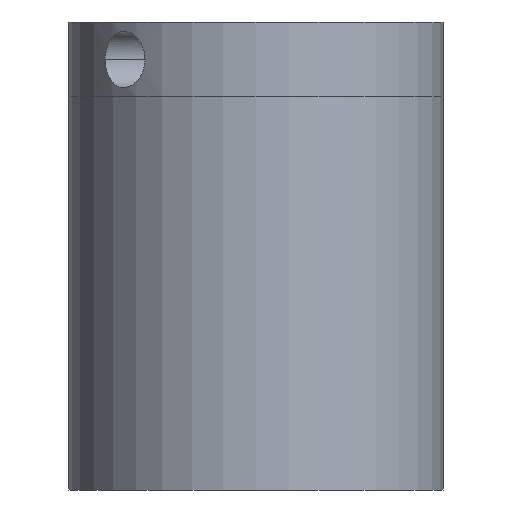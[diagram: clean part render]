
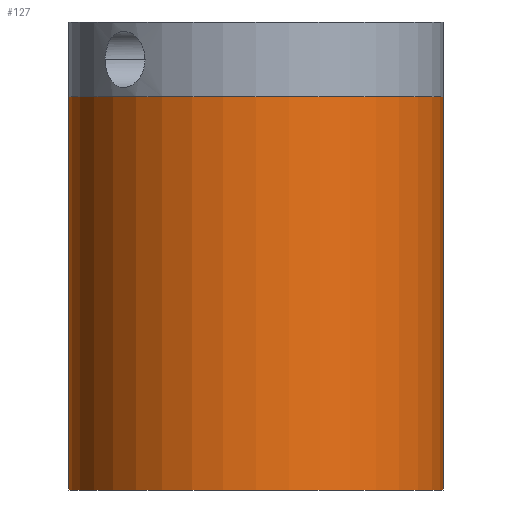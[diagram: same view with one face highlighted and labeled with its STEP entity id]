
A CAD part, front view. The second image highlights one B-rep face of the part: STEP entity #127.
In plain terms, the highlighted cylindrical face has radius 20 mm (diameter 40 mm), a partial arc.
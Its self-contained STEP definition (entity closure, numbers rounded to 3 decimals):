
#127=ADVANCED_FACE('',(#161),#147,.T.);
#147=CYLINDRICAL_SURFACE('',#416,20.);
#161=FACE_OUTER_BOUND('',#173,.T.);
#173=EDGE_LOOP('',(#221,#222,#223,#224));
#201=CIRCLE('',#414,20.);
#202=CIRCLE('',#415,20.);
#221=ORIENTED_EDGE('',*,*,#337,.T.);
#222=ORIENTED_EDGE('',*,*,#338,.F.);
#223=ORIENTED_EDGE('',*,*,#339,.F.);
#224=ORIENTED_EDGE('',*,*,#340,.T.);
#309=VERTEX_POINT('',#554);
#310=VERTEX_POINT('',#555);
#311=VERTEX_POINT('',#557);
#312=VERTEX_POINT('',#559);
#337=EDGE_CURVE('',#309,#310,#381,.T.);
#338=EDGE_CURVE('',#311,#310,#201,.T.);
#339=EDGE_CURVE('',#312,#311,#382,.T.);
#340=EDGE_CURVE('',#312,#309,#202,.T.);
#381=LINE('',#553,#397);
#382=LINE('',#558,#398);
#397=VECTOR('',#456,1.);
#398=VECTOR('',#459,1.);
#414=AXIS2_PLACEMENT_3D('',#556,#457,#458);
#415=AXIS2_PLACEMENT_3D('',#560,#460,#461);
#416=AXIS2_PLACEMENT_3D('',#561,#462,#463);
#456=DIRECTION('',(0.,0.,-1.));
#457=DIRECTION('',(0.,0.,-1.));
#458=DIRECTION('',(0.,1.,0.));
#459=DIRECTION('',(0.,0.,-1.));
#460=DIRECTION('',(0.,0.,-1.));
#461=DIRECTION('',(0.,1.,0.));
#462=DIRECTION('',(0.,0.,-1.));
#463=DIRECTION('',(0.,-1.,0.));
#553=CARTESIAN_POINT('',(-20.,0.,0.));
#554=CARTESIAN_POINT('',(-20.,0.,42.));
#555=CARTESIAN_POINT('',(-20.,0.,0.));
#556=CARTESIAN_POINT('',(0.,0.,0.));
#557=CARTESIAN_POINT('',(20.,0.,0.));
#558=CARTESIAN_POINT('',(20.,0.,0.));
#559=CARTESIAN_POINT('',(20.,0.,42.));
#560=CARTESIAN_POINT('',(0.,0.,42.));
#561=CARTESIAN_POINT('',(0.,0.,42.));
